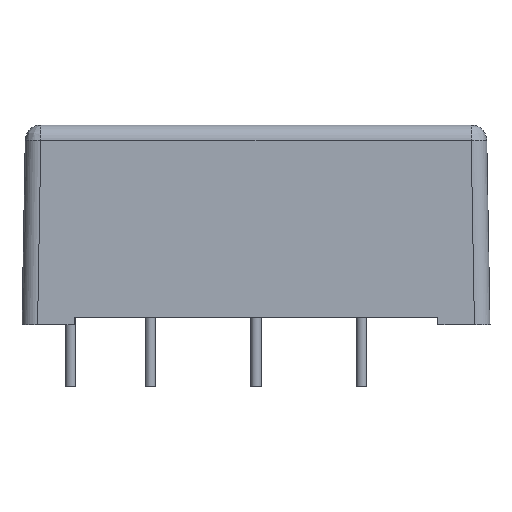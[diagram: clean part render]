
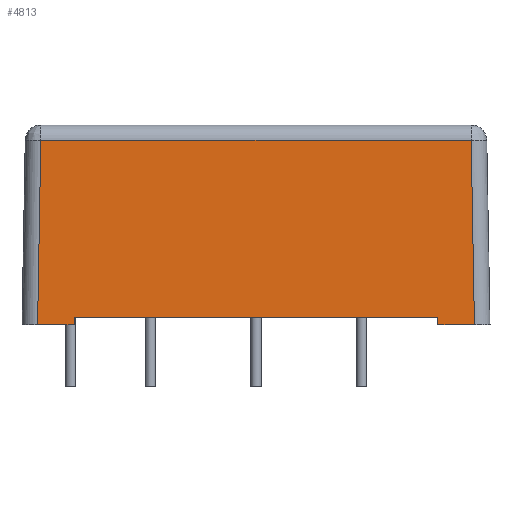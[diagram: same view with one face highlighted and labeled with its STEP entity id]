
A CAD part, front view. The second image highlights one B-rep face of the part: STEP entity #4813.
In plain terms, the highlighted planar face has unit normal (0, -1, 0.018).
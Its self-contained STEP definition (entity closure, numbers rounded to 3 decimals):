
#77 = ORIENTED_EDGE ( 'NONE', *, *, #7648, .T. ) ;
#115 = CARTESIAN_POINT ( 'NONE',  ( 17.5, -32.012, -0.7 ) ) ;
#212 = EDGE_CURVE ( 'NONE', #4882, #6168, #8095, .T. ) ;
#339 = CARTESIAN_POINT ( 'NONE',  ( -23.114, -31.703, 17.026 ) ) ;
#457 = DIRECTION ( 'NONE',  ( 0., -1., 0.017 ) ) ;
#533 = CARTESIAN_POINT ( 'NONE',  ( -17.5, -32., 0. ) ) ;
#739 = DIRECTION ( 'NONE',  ( -0.017, -0.017, -1. ) ) ;
#1039 = LINE ( 'NONE', #7460, #4253 ) ;
#1107 = CARTESIAN_POINT ( 'NONE',  ( -17.249, -32.012, -0.7 ) ) ;
#1265 = VERTEX_POINT ( 'NONE', #7672 ) ;
#1392 = CARTESIAN_POINT ( 'NONE',  ( 22.763, -32.012, -0.7 ) ) ;
#1442 = LINE ( 'NONE', #1107, #7835 ) ;
#1750 = ORIENTED_EDGE ( 'NONE', *, *, #2703, .T. ) ;
#1771 = CARTESIAN_POINT ( 'NONE',  ( 21.012, -32.012, -0.7 ) ) ;
#1908 = DIRECTION ( 'NONE',  ( -1., 0., 0. ) ) ;
#2191 = VERTEX_POINT ( 'NONE', #5317 ) ;
#2310 = LINE ( 'NONE', #6407, #5331 ) ;
#2367 = PLANE ( 'NONE',  #5880 ) ;
#2404 = DIRECTION ( 'NONE',  ( -1., 0., 0. ) ) ;
#2476 = ORIENTED_EDGE ( 'NONE', *, *, #2889, .F. ) ;
#2485 = ORIENTED_EDGE ( 'NONE', *, *, #2509, .F. ) ;
#2509 = EDGE_CURVE ( 'NONE', #6168, #4847, #1039, .T. ) ;
#2653 = CARTESIAN_POINT ( 'NONE',  ( -20.703, -31.703, 17.026 ) ) ;
#2703 = EDGE_CURVE ( 'NONE', #4882, #6308, #6463, .T. ) ;
#2889 = EDGE_CURVE ( 'NONE', #4335, #6743, #1442, .T. ) ;
#3043 = VECTOR ( 'NONE', #7974, 1000. ) ;
#3329 = FACE_OUTER_BOUND ( 'NONE', #6155, .T. ) ;
#3539 = DIRECTION ( 'NONE',  ( -1., 0., 0. ) ) ;
#3739 = DIRECTION ( 'NONE',  ( 0., -0.017, -1. ) ) ;
#4158 = CARTESIAN_POINT ( 'NONE',  ( 21.012, -32.012, -0.7 ) ) ;
#4253 = VECTOR ( 'NONE', #4268, 1000. ) ;
#4268 = DIRECTION ( 'NONE',  ( 0., 0.017, 1. ) ) ;
#4335 = VERTEX_POINT ( 'NONE', #5161 ) ;
#4571 = LINE ( 'NONE', #533, #7752 ) ;
#4623 = DIRECTION ( 'NONE',  ( -1., 0., 0. ) ) ;
#4640 = ORIENTED_EDGE ( 'NONE', *, *, #5712, .T. ) ;
#4813 = ADVANCED_FACE ( 'NONE', ( #3329 ), #2367, .T. ) ;
#4847 = VERTEX_POINT ( 'NONE', #5609 ) ;
#4882 = VERTEX_POINT ( 'NONE', #1771 ) ;
#4944 = DIRECTION ( 'NONE',  ( 0., -0.017, -1. ) ) ;
#4947 = CARTESIAN_POINT ( 'NONE',  ( -21.012, -32.012, -0.7 ) ) ;
#4980 = EDGE_CURVE ( 'NONE', #4847, #2191, #2310, .T. ) ;
#5161 = CARTESIAN_POINT ( 'NONE',  ( -17.5, -32.012, -0.7 ) ) ;
#5317 = CARTESIAN_POINT ( 'NONE',  ( -17.5, -32., 0. ) ) ;
#5331 = VECTOR ( 'NONE', #1908, 1000. ) ;
#5396 = VECTOR ( 'NONE', #3539, 1000. ) ;
#5557 = CARTESIAN_POINT ( 'NONE',  ( -23.114, -31.687, 17.912 ) ) ;
#5576 = LINE ( 'NONE', #339, #5396 ) ;
#5609 = CARTESIAN_POINT ( 'NONE',  ( 17.5, -32., 0. ) ) ;
#5712 = EDGE_CURVE ( 'NONE', #1265, #6743, #5813, .T. ) ;
#5813 = LINE ( 'NONE', #2653, #7103 ) ;
#5880 = AXIS2_PLACEMENT_3D ( 'NONE', #5557, #457, #4944 ) ;
#6155 = EDGE_LOOP ( 'NONE', ( #1750, #77, #4640, #2476, #8271, #8222, #2485, #8209 ) ) ;
#6168 = VERTEX_POINT ( 'NONE', #115 ) ;
#6308 = VERTEX_POINT ( 'NONE', #6328 ) ;
#6328 = CARTESIAN_POINT ( 'NONE',  ( 20.703, -31.703, 17.026 ) ) ;
#6407 = CARTESIAN_POINT ( 'NONE',  ( 19.25, -32., 0. ) ) ;
#6434 = VECTOR ( 'NONE', #4623, 1000. ) ;
#6463 = LINE ( 'NONE', #4158, #3043 ) ;
#6743 = VERTEX_POINT ( 'NONE', #4947 ) ;
#7103 = VECTOR ( 'NONE', #739, 1000. ) ;
#7460 = CARTESIAN_POINT ( 'NONE',  ( 17.5, -32.012, -0.7 ) ) ;
#7648 = EDGE_CURVE ( 'NONE', #6308, #1265, #5576, .T. ) ;
#7672 = CARTESIAN_POINT ( 'NONE',  ( -20.703, -31.703, 17.026 ) ) ;
#7752 = VECTOR ( 'NONE', #3739, 1000. ) ;
#7835 = VECTOR ( 'NONE', #2404, 1000. ) ;
#7974 = DIRECTION ( 'NONE',  ( -0.017, 0.017, 1. ) ) ;
#8095 = LINE ( 'NONE', #1392, #6434 ) ;
#8209 = ORIENTED_EDGE ( 'NONE', *, *, #212, .F. ) ;
#8222 = ORIENTED_EDGE ( 'NONE', *, *, #4980, .F. ) ;
#8269 = EDGE_CURVE ( 'NONE', #2191, #4335, #4571, .T. ) ;
#8271 = ORIENTED_EDGE ( 'NONE', *, *, #8269, .F. ) ;
